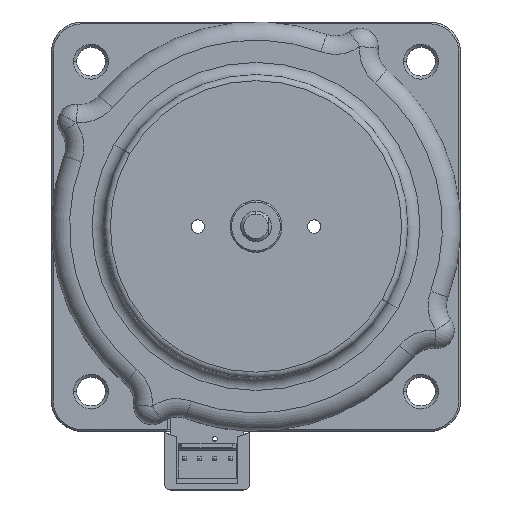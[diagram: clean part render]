
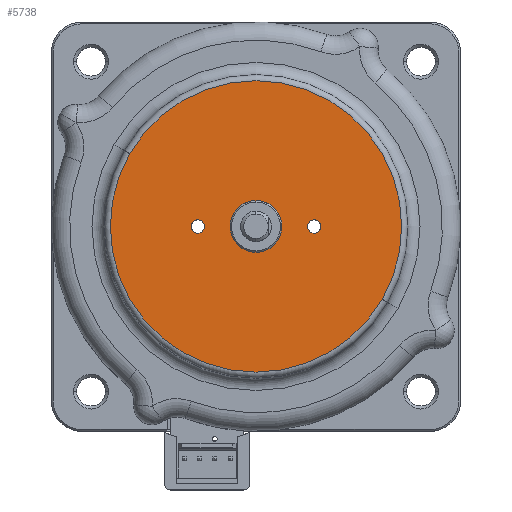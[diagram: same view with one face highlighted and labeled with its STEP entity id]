
A CAD part, top view. The second image highlights one B-rep face of the part: STEP entity #5738.
In plain terms, the highlighted planar face has unit normal (0, 0, 1).
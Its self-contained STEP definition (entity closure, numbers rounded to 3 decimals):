
#1374 = CARTESIAN_POINT ( 'NONE',  ( -6.891, -7.708, 23.55 ) ) ;
#1465 = CARTESIAN_POINT ( 'NONE',  ( 10.084, -17.508, 23.55 ) ) ;
#1521 = CARTESIAN_POINT ( 'NONE',  ( -19.143, -6.133, 23.55 ) ) ;
#1522 = CARTESIAN_POINT ( 'NONE',  ( -21.049, -5.033, 23.55 ) ) ;
#1523 = DIRECTION ( 'NONE',  ( -0.866, 0.5, 0. ) ) ;
#1524 = DIRECTION ( 'NONE',  ( 0., 0., -1. ) ) ;
#1525 = AXIS2_PLACEMENT_3D ( 'NONE', #1531, #1524, #1523 ) ;
#1526 = CIRCLE ( 'NONE', #1525, 1.1 ) ;
#1531 = CARTESIAN_POINT ( 'NONE',  ( -20.096, -5.583, 23.55 ) ) ;
#1555 = CARTESIAN_POINT ( 'NONE',  ( -14.252, -3.458, 23.55 ) ) ;
#1556 = DIRECTION ( 'NONE',  ( -0.866, 0.5, 0. ) ) ;
#1557 = DIRECTION ( 'NONE',  ( 0., 0., 1. ) ) ;
#1558 = CARTESIAN_POINT ( 'NONE',  ( -10.571, -5.583, 23.55 ) ) ;
#1559 = AXIS2_PLACEMENT_3D ( 'NONE', #1558, #1557, #1556 ) ;
#1560 = CIRCLE ( 'NONE', #1559, 4.25 ) ;
#1629 = DIRECTION ( 'NONE',  ( -0.866, 0.5, 0. ) ) ;
#1630 = DIRECTION ( 'NONE',  ( 0., 0., -1. ) ) ;
#1631 = CARTESIAN_POINT ( 'NONE',  ( -1.046, -5.583, 23.55 ) ) ;
#1632 = AXIS2_PLACEMENT_3D ( 'NONE', #1631, #1630, #1629 ) ;
#1633 = CIRCLE ( 'NONE', #1632, 1.1 ) ;
#1645 = DIRECTION ( 'NONE',  ( -0.866, 0.5, 0. ) ) ;
#1646 = DIRECTION ( 'NONE',  ( 0., 0., 1. ) ) ;
#1647 = CARTESIAN_POINT ( 'NONE',  ( -10.571, -5.583, 23.55 ) ) ;
#1648 = AXIS2_PLACEMENT_3D ( 'NONE', #1647, #1646, #1645 ) ;
#1653 = CIRCLE ( 'NONE', #1648, 23.85 ) ;
#1789 = CARTESIAN_POINT ( 'NONE',  ( -0.093, -6.133, 23.55 ) ) ;
#1790 = CARTESIAN_POINT ( 'NONE',  ( -1.999, -5.033, 23.55 ) ) ;
#1791 = DIRECTION ( 'NONE',  ( -0.866, 0.5, 0. ) ) ;
#1792 = DIRECTION ( 'NONE',  ( 0., 0., -1. ) ) ;
#1793 = CARTESIAN_POINT ( 'NONE',  ( -1.046, -5.583, 23.55 ) ) ;
#1794 = AXIS2_PLACEMENT_3D ( 'NONE', #1793, #1792, #1791 ) ;
#1795 = CIRCLE ( 'NONE', #1794, 1.1 ) ;
#1845 = CARTESIAN_POINT ( 'NONE',  ( -31.226, 6.342, 23.55 ) ) ;
#3152 = FACE_BOUND ( 'NONE', #5769, .T. ) ;
#3153 = FACE_OUTER_BOUND ( 'NONE', #5757, .T. ) ;
#3154 = FACE_BOUND ( 'NONE', #5722, .T. ) ;
#3155 = FACE_BOUND ( 'NONE', #5782, .T. ) ;
#3190 = DIRECTION ( 'NONE',  ( -0.866, 0.5, 0. ) ) ;
#3191 = DIRECTION ( 'NONE',  ( 0., 0., 1. ) ) ;
#3192 = CARTESIAN_POINT ( 'NONE',  ( -10.571, -5.583, 23.55 ) ) ;
#3193 = AXIS2_PLACEMENT_3D ( 'NONE', #3192, #3191, #3190 ) ;
#3194 = PLANE ( 'NONE',  #3193 ) ;
#3223 = DIRECTION ( 'NONE',  ( -0.866, 0.5, 0. ) ) ;
#3224 = DIRECTION ( 'NONE',  ( 0., 0., -1. ) ) ;
#3225 = CARTESIAN_POINT ( 'NONE',  ( -20.096, -5.583, 23.55 ) ) ;
#3226 = AXIS2_PLACEMENT_3D ( 'NONE', #3225, #3224, #3223 ) ;
#3227 = CIRCLE ( 'NONE', #3226, 1.1 ) ;
#3238 = DIRECTION ( 'NONE',  ( -0.866, 0.5, 0. ) ) ;
#3239 = DIRECTION ( 'NONE',  ( 0., 0., 1. ) ) ;
#3240 = CARTESIAN_POINT ( 'NONE',  ( -10.571, -5.583, 23.55 ) ) ;
#3241 = AXIS2_PLACEMENT_3D ( 'NONE', #3240, #3239, #3238 ) ;
#3242 = CIRCLE ( 'NONE', #3241, 4.25 ) ;
#3270 = DIRECTION ( 'NONE',  ( 0., 0., 1. ) ) ;
#3271 = CARTESIAN_POINT ( 'NONE',  ( -10.571, -5.583, 23.55 ) ) ;
#3272 = AXIS2_PLACEMENT_3D ( 'NONE', #3271, #3270, #3324 ) ;
#3273 = CIRCLE ( 'NONE', #3272, 23.85 ) ;
#3324 = DIRECTION ( 'NONE',  ( -0.866, 0.5, 0. ) ) ;
#5180 = VERTEX_POINT ( 'NONE', #1374 ) ;
#5200 = VERTEX_POINT ( 'NONE', #1465 ) ;
#5210 = EDGE_CURVE ( 'NONE', #5211, #5212, #1526, .T. ) ;
#5211 = VERTEX_POINT ( 'NONE', #1522 ) ;
#5212 = VERTEX_POINT ( 'NONE', #1521 ) ;
#5228 = EDGE_CURVE ( 'NONE', #5180, #5229, #1560, .T. ) ;
#5229 = VERTEX_POINT ( 'NONE', #1555 ) ;
#5254 = EDGE_CURVE ( 'NONE', #5308, #5200, #1653, .T. ) ;
#5261 = EDGE_CURVE ( 'NONE', #5290, #5289, #1633, .T. ) ;
#5288 = EDGE_CURVE ( 'NONE', #5289, #5290, #1795, .T. ) ;
#5289 = VERTEX_POINT ( 'NONE', #1790 ) ;
#5290 = VERTEX_POINT ( 'NONE', #1789 ) ;
#5308 = VERTEX_POINT ( 'NONE', #1845 ) ;
#5721 = ORIENTED_EDGE ( 'NONE', *, *, #5210, .T. ) ;
#5722 = EDGE_LOOP ( 'NONE', ( #5837, #5838 ) ) ;
#5738 = ADVANCED_FACE ( 'NONE', ( #3155, #3154, #3153, #3152 ), #3194, .T. ) ;
#5739 = ORIENTED_EDGE ( 'NONE', *, *, #5767, .T. ) ;
#5743 = ORIENTED_EDGE ( 'NONE', *, *, #5261, .T. ) ;
#5744 = ORIENTED_EDGE ( 'NONE', *, *, #5288, .T. ) ;
#5756 = EDGE_CURVE ( 'NONE', #5229, #5180, #3242, .T. ) ;
#5757 = EDGE_LOOP ( 'NONE', ( #5758, #5768 ) ) ;
#5758 = ORIENTED_EDGE ( 'NONE', *, *, #5254, .T. ) ;
#5767 = EDGE_CURVE ( 'NONE', #5212, #5211, #3227, .T. ) ;
#5768 = ORIENTED_EDGE ( 'NONE', *, *, #5788, .T. ) ;
#5769 = EDGE_LOOP ( 'NONE', ( #5743, #5744 ) ) ;
#5782 = EDGE_LOOP ( 'NONE', ( #5739, #5721 ) ) ;
#5788 = EDGE_CURVE ( 'NONE', #5200, #5308, #3273, .T. ) ;
#5837 = ORIENTED_EDGE ( 'NONE', *, *, #5228, .F. ) ;
#5838 = ORIENTED_EDGE ( 'NONE', *, *, #5756, .F. ) ;
